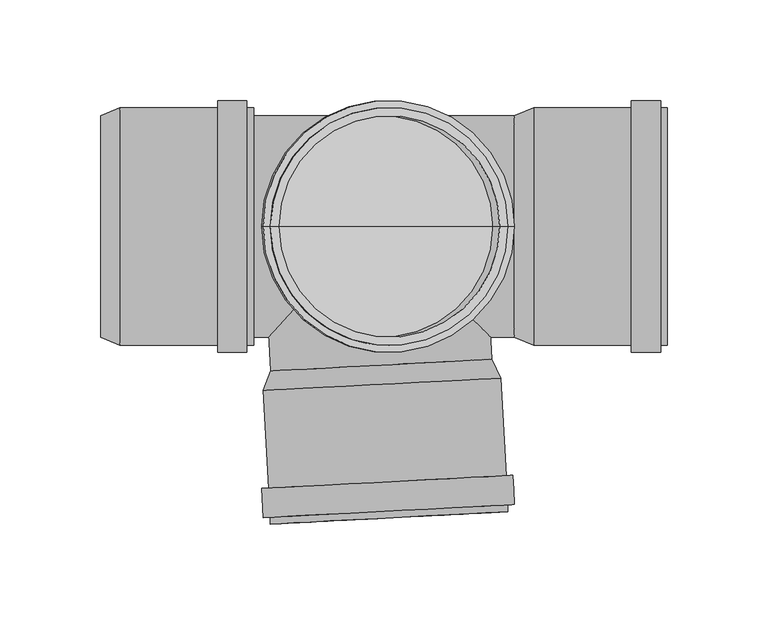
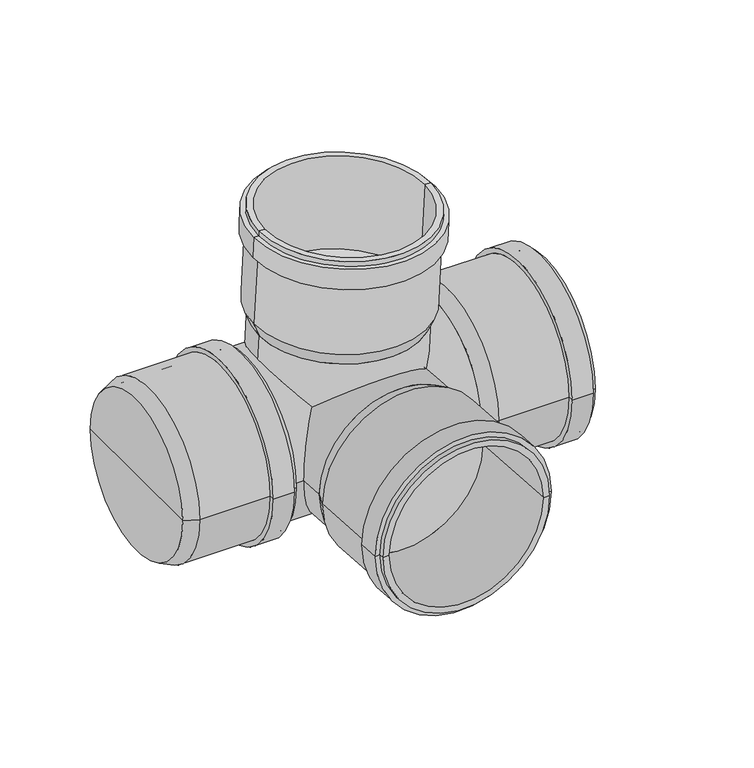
"""IFC4 building model written with IfcOpenShell, lengths in millimetres: pipe fitting geometry, pf_HTED : pf_HTED."""

from ifc_helpers import new_model, si_unit, point, frame, origin, origin_2d, place, context, project, spatial, polyline, circle_curve, trimmed, segment, composite_curve, outline, extrude, source, transform, mapped, element, save
from ifc_brep_helpers import plane_surface, cylinder_surface, revolved_surface, advanced_brep


def pipe_fitting_1ce450aa(model_context):
    return source(origin(), model_context, "Body", "SolidModel", [
        advanced_brep(
        [(58.5358054, 0.0, 66.0269603), (-51.3134434, 0.0, 71.7839155), (-54.9106329, 0.0, 81.4854735), (63.1273781, 0.0, 75.2993635), (3.611181, 0.0, 68.9054379), (66.6077192, 0.0, 141.7082275), (-51.4302918, 0.0, 147.8943376), (-47.3359108, 0.0, 147.6797601), (62.5133381, 0.0, 141.9228049), (66.4297769, 0.0, 138.3128871), (-51.6082341, 0.0, 144.4989971), (69.8251173, 0.0, 138.1349449), (-55.0035745, 0.0, 144.6769394), (69.066246, 0.0, 123.6548166), (-55.7624459, 0.0, 130.1968111), (65.6709055, 0.0, 123.8327589), (-52.3671055, 0.0, 130.0188689), (59.032997, 0.0, 75.5139409), (-50.8162518, 0.0, 81.2708961), (4.1083726, 0.0, 78.3924185)],
        [
            (0, 1, circle_curve(frame((3.611181, 0.0, 68.9054379), z_axis=(0.052335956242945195, 0.0, 0.9986295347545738), x_axis=(-0.9986295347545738, 0.0, 0.052335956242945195)), 55.0)),
            (1, 2),
            (2, 3, circle_curve(frame((4.1083726, 0.0, 78.3924185), z_axis=(-0.052335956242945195, 0.0, -0.9986295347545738), x_axis=(-0.9986295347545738, 0.0, 0.052335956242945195)), 59.1)),
            (3, 0),
            (1, 0, circle_curve(frame((3.611181, 0.0, 68.9054379), z_axis=(0.052335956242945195, 0.0, 0.9986295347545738), x_axis=(-0.9986295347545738, 0.0, 0.052335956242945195)), 55.0)),
            (3, 2, circle_curve(frame((4.1083726, 0.0, 78.3924185), z_axis=(-0.052335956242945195, 0.0, -0.9986295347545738), x_axis=(-0.9986295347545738, 0.0, 0.052335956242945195)), 59.1)),
            (4, 1),
            (0, 4),
            (5, 6, circle_curve(frame((7.5887137, 0.0, 144.8012825), z_axis=(0.052335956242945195, 0.0, 0.9986295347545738), x_axis=(-0.9986295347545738, 0.0, 0.052335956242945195)), 59.1)),
            (6, 7),
            (7, 8, circle_curve(frame((7.5887137, 0.0, 144.8012825), z_axis=(-0.052335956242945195, 0.0, -0.9986295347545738), x_axis=(-0.9986295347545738, 0.0, 0.052335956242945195)), 55.0)),
            (8, 5),
            (6, 5, circle_curve(frame((7.5887137, 0.0, 144.8012825), z_axis=(0.052335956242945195, 0.0, 0.9986295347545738), x_axis=(-0.9986295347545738, 0.0, 0.052335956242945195)), 59.1)),
            (8, 7, circle_curve(frame((7.5887137, 0.0, 144.8012825), z_axis=(-0.052335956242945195, 0.0, -0.9986295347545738), x_axis=(-0.9986295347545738, 0.0, 0.052335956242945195)), 55.0)),
            (9, 10, circle_curve(frame((7.4107714, 0.0, 141.4059421), z_axis=(0.052335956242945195, 0.0, 0.9986295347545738), x_axis=(-0.9986295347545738, 0.0, 0.052335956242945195)), 59.1)),
            (10, 6),
            (5, 9),
            (10, 9, circle_curve(frame((7.4107714, 0.0, 141.4059421), z_axis=(0.052335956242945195, 0.0, 0.9986295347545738), x_axis=(-0.9986295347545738, 0.0, 0.052335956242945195)), 59.1)),
            (11, 12, circle_curve(frame((7.4107714, 0.0, 141.4059421), z_axis=(0.052335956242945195, 0.0, 0.9986295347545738), x_axis=(-0.9986295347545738, 0.0, 0.052335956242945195)), 62.5)),
            (12, 10),
            (9, 11),
            (12, 11, circle_curve(frame((7.4107714, 0.0, 141.4059421), z_axis=(0.052335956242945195, 0.0, 0.9986295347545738), x_axis=(-0.9986295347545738, 0.0, 0.052335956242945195)), 62.5)),
            (13, 14, circle_curve(frame((6.6519, 0.0, 126.9258139), z_axis=(0.052335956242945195, 0.0, 0.9986295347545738), x_axis=(-0.9986295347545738, 0.0, 0.052335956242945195)), 62.5)),
            (14, 12),
            (11, 13),
            (14, 13, circle_curve(frame((6.6519, 0.0, 126.9258139), z_axis=(0.052335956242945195, 0.0, 0.9986295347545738), x_axis=(-0.9986295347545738, 0.0, 0.052335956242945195)), 62.5)),
            (15, 16, circle_curve(frame((6.6519, 0.0, 126.9258139), z_axis=(0.052335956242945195, 0.0, 0.9986295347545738), x_axis=(-0.9986295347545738, 0.0, 0.052335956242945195)), 59.1)),
            (16, 14),
            (13, 15),
            (16, 15, circle_curve(frame((6.6519, 0.0, 126.9258139), z_axis=(0.052335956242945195, 0.0, 0.9986295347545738), x_axis=(-0.9986295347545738, 0.0, 0.052335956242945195)), 59.1)),
            (2, 16),
            (15, 3),
            (17, 18, circle_curve(frame((4.1083726, 0.0, 78.3924185), z_axis=(0.052335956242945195, 0.0, 0.9986295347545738), x_axis=(-0.9986295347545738, 0.0, 0.052335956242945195)), 55.0)),
            (18, 19),
            (19, 17),
            (18, 17, circle_curve(frame((4.1083726, 0.0, 78.3924185), z_axis=(0.052335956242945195, 0.0, 0.9986295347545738), x_axis=(-0.9986295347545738, 0.0, 0.052335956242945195)), 55.0)),
            (7, 18),
            (17, 8),
        ],
        [
            revolved_surface(polyline([(-54.9106329, 0.0, 81.4854735), (-51.3134434, 0.0, 71.7839155)]), (3.611181, 0.0, 68.9054379), (-0.052335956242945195, 0.0, -0.9986295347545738)),
            plane_surface(frame((3.611181, 0.0, 68.9054379), z_axis=(-0.052335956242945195, 0.0, -0.9986295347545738), x_axis=(-0.9986295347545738, 0.0, 0.052335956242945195))),
            plane_surface(frame((7.5887137, 0.0, 144.8012825), z_axis=(0.052335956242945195, 0.0, 0.9986295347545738), x_axis=(-0.9986295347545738, 0.0, 0.052335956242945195))),
            cylinder_surface(frame((3.611181, 0.0, 68.9054379), z_axis=(-0.052335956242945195, 0.0, -0.9986295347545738), x_axis=(-0.9986295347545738, 0.0, 0.052335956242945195)), 59.1),
            plane_surface(frame((7.4107714, 0.0, 141.4059421), z_axis=(0.052335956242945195, 0.0, 0.9986295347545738), x_axis=(-0.9986295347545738, 0.0, 0.052335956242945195))),
            cylinder_surface(frame((3.611181, 0.0, 68.9054379), z_axis=(-0.052335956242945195, 0.0, -0.9986295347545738), x_axis=(-0.9986295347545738, 0.0, 0.052335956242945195)), 62.5),
            plane_surface(frame((6.6519, 0.0, 126.9258139), z_axis=(-0.052335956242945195, 0.0, -0.9986295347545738), x_axis=(-0.9986295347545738, 0.0, 0.052335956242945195))),
            plane_surface(frame((4.1083726, 0.0, 78.3924185), z_axis=(0.052335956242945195, 0.0, 0.9986295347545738), x_axis=(-0.9986295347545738, 0.0, 0.052335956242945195))),
            revolved_surface(polyline([(-50.816251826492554, 0.0, 81.27089608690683), (-47.33591073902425, 0.0, 147.6797600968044)]), (3.611181, 0.0, 68.9054379), (-0.052335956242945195, 0.0, -0.9986295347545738)),
        ],
        [
            (0, [[1, 2, 3, 4]]),
            (0, [[5, -4, 6, -2]]),
            (1, [[7, -1, 8]]),
            (1, [[-8, -5, -7]]),
            (2, [[9, 10, 11, 12]]),
            (2, [[13, -12, 14, -10]]),
            (3, [[15, 16, -9, 17]]),
            (3, [[18, -17, -13, -16]]),
            (4, [[19, 20, -15, 21]]),
            (4, [[22, -21, -18, -20]]),
            (5, [[23, 24, -19, 25]]),
            (5, [[26, -25, -22, -24]]),
            (6, [[27, 28, -23, 29]]),
            (6, [[30, -29, -26, -28]]),
            (3, [[-3, 31, -27, 32]]),
            (3, [[-6, -32, -30, -31]]),
            (7, [[33, 34, 35]]),
            (7, [[36, -35, -34]]),
            (8, [[-11, 37, -33, 38]]),
            (8, [[-14, -38, -36, -37]]),
        ],
    ),
        advanced_brep(
        [(-51.3134434, -71.7839155, 0.0), (58.5358054, -66.0269603, 0.0), (63.1273781, -75.2993635, 0.0), (-54.9106329, -81.4854735, 0.0), (3.611181, -68.9054379, 0.0), (-51.4302918, -147.8943376, 0.0), (66.6077192, -141.7082275, 0.0), (62.5133381, -141.9228049, 0.0), (-47.3359108, -147.6797601, 0.0), (-51.6082341, -144.4989971, 0.0), (66.4297769, -138.3128871, 0.0), (-55.0035745, -144.6769394, 0.0), (69.8251173, -138.1349449, 0.0), (-55.7624459, -130.1968111, 0.0), (69.066246, -123.6548166, 0.0), (-52.3671055, -130.0188689, 0.0), (65.6709055, -123.8327589, 0.0), (-50.8162518, -81.2708961, 0.0), (59.032997, -75.5139409, 0.0), (4.1083726, -78.3924185, 0.0)],
        [
            (0, 1, circle_curve(frame((3.611181, -68.9054379, 0.0), z_axis=(0.05233595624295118, -0.9986295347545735, 0.0), x_axis=(0.9986295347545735, 0.05233595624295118, 0.0)), 55.0)),
            (1, 2),
            (2, 3, circle_curve(frame((4.1083726, -78.3924185, 0.0), z_axis=(-0.05233595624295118, 0.9986295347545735, 0.0), x_axis=(0.9986295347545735, 0.05233595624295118, 0.0)), 59.1)),
            (3, 0),
            (1, 0, circle_curve(frame((3.611181, -68.9054379, 0.0), z_axis=(0.05233595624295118, -0.9986295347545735, 0.0), x_axis=(0.9986295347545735, 0.05233595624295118, 0.0)), 55.0)),
            (3, 2, circle_curve(frame((4.1083726, -78.3924185, 0.0), z_axis=(-0.05233595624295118, 0.9986295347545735, 0.0), x_axis=(0.9986295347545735, 0.05233595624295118, 0.0)), 59.1)),
            (4, 1),
            (0, 4),
            (5, 6, circle_curve(frame((7.5887137, -144.8012825, 0.0), z_axis=(0.05233595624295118, -0.9986295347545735, 0.0), x_axis=(0.9986295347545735, 0.05233595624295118, 0.0)), 59.1)),
            (6, 7),
            (7, 8, circle_curve(frame((7.5887137, -144.8012825, 0.0), z_axis=(-0.05233595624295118, 0.9986295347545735, 0.0), x_axis=(0.9986295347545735, 0.05233595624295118, 0.0)), 55.0)),
            (8, 5),
            (6, 5, circle_curve(frame((7.5887137, -144.8012825, 0.0), z_axis=(0.05233595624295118, -0.9986295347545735, 0.0), x_axis=(0.9986295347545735, 0.05233595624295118, 0.0)), 59.1)),
            (8, 7, circle_curve(frame((7.5887137, -144.8012825, 0.0), z_axis=(-0.05233595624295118, 0.9986295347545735, 0.0), x_axis=(0.9986295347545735, 0.05233595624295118, 0.0)), 55.0)),
            (9, 10, circle_curve(frame((7.4107714, -141.4059421, 0.0), z_axis=(0.05233595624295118, -0.9986295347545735, 0.0), x_axis=(0.9986295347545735, 0.05233595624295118, 0.0)), 59.1)),
            (10, 6),
            (5, 9),
            (10, 9, circle_curve(frame((7.4107714, -141.4059421, 0.0), z_axis=(0.05233595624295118, -0.9986295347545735, 0.0), x_axis=(0.9986295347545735, 0.05233595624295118, 0.0)), 59.1)),
            (11, 12, circle_curve(frame((7.4107714, -141.4059421, 0.0), z_axis=(0.05233595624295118, -0.9986295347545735, 0.0), x_axis=(0.9986295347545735, 0.05233595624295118, 0.0)), 62.5)),
            (12, 10),
            (9, 11),
            (12, 11, circle_curve(frame((7.4107714, -141.4059421, 0.0), z_axis=(0.05233595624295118, -0.9986295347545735, 0.0), x_axis=(0.9986295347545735, 0.05233595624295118, 0.0)), 62.5)),
            (13, 14, circle_curve(frame((6.6519, -126.9258139, 0.0), z_axis=(0.05233595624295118, -0.9986295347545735, 0.0), x_axis=(0.9986295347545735, 0.05233595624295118, 0.0)), 62.5)),
            (14, 12),
            (11, 13),
            (14, 13, circle_curve(frame((6.6519, -126.9258139, 0.0), z_axis=(0.05233595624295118, -0.9986295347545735, 0.0), x_axis=(0.9986295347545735, 0.05233595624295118, 0.0)), 62.5)),
            (15, 16, circle_curve(frame((6.6519, -126.9258139, 0.0), z_axis=(0.05233595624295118, -0.9986295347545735, 0.0), x_axis=(0.9986295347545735, 0.05233595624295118, 0.0)), 59.1)),
            (16, 14),
            (13, 15),
            (16, 15, circle_curve(frame((6.6519, -126.9258139, 0.0), z_axis=(0.05233595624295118, -0.9986295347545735, 0.0), x_axis=(0.9986295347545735, 0.05233595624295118, 0.0)), 59.1)),
            (2, 16),
            (15, 3),
            (17, 18, circle_curve(frame((4.1083726, -78.3924185, 0.0), z_axis=(0.05233595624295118, -0.9986295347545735, 0.0), x_axis=(0.9986295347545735, 0.05233595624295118, 0.0)), 55.0)),
            (18, 19),
            (19, 17),
            (18, 17, circle_curve(frame((4.1083726, -78.3924185, 0.0), z_axis=(0.05233595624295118, -0.9986295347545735, 0.0), x_axis=(0.9986295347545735, 0.05233595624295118, 0.0)), 55.0)),
            (7, 18),
            (17, 8),
        ],
        [
            revolved_surface(polyline([(63.1273781, -75.2993635, 0.0), (58.5358054, -66.0269603, 0.0)]), (3.611181, -68.9054379, 0.0), (-0.05233595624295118, 0.9986295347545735, 0.0)),
            plane_surface(frame((3.611181, -68.9054379, 0.0), z_axis=(-0.05233595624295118, 0.9986295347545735, 0.0), x_axis=(0.9986295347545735, 0.05233595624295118, 0.0))),
            plane_surface(frame((7.5887137, -144.8012825, 0.0), z_axis=(0.05233595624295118, -0.9986295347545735, 0.0), x_axis=(0.9986295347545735, 0.05233595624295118, 0.0))),
            cylinder_surface(frame((3.611181, -68.9054379, 0.0), z_axis=(-0.05233595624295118, 0.9986295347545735, 0.0), x_axis=(0.9986295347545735, 0.05233595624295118, 0.0)), 59.1),
            plane_surface(frame((7.4107714, -141.4059421, 0.0), z_axis=(0.05233595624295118, -0.9986295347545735, 0.0), x_axis=(0.9986295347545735, 0.05233595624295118, 0.0))),
            cylinder_surface(frame((3.611181, -68.9054379, 0.0), z_axis=(-0.05233595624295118, 0.9986295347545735, 0.0), x_axis=(0.9986295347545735, 0.05233595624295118, 0.0)), 62.5),
            plane_surface(frame((6.6519, -126.9258139, 0.0), z_axis=(-0.05233595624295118, 0.9986295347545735, 0.0), x_axis=(0.9986295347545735, 0.05233595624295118, 0.0))),
            plane_surface(frame((4.1083726, -78.3924185, 0.0), z_axis=(0.05233595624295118, -0.9986295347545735, 0.0), x_axis=(0.9986295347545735, 0.05233595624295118, 0.0))),
            revolved_surface(polyline([(59.032996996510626, -75.51394090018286, 0.0), (62.513338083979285, -141.92280491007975, 0.0)]), (3.611181, -68.9054379, 0.0), (-0.05233595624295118, 0.9986295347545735, 0.0)),
        ],
        [
            (0, [[1, 2, 3, 4]]),
            (0, [[5, -4, 6, -2]]),
            (1, [[7, -1, 8]]),
            (1, [[-8, -5, -7]]),
            (2, [[9, 10, 11, 12]]),
            (2, [[13, -12, 14, -10]]),
            (3, [[15, 16, -9, 17]]),
            (3, [[18, -17, -13, -16]]),
            (4, [[19, 20, -15, 21]]),
            (4, [[22, -21, -18, -20]]),
            (5, [[23, 24, -19, 25]]),
            (5, [[26, -25, -22, -24]]),
            (6, [[27, 28, -23, 29]]),
            (6, [[30, -29, -26, -28]]),
            (3, [[-3, 31, -27, 32]]),
            (3, [[-6, -32, -30, -31]]),
            (7, [[33, 34, 35]]),
            (7, [[36, -35, -34]]),
            (8, [[-11, 37, -33, 38]]),
            (8, [[-14, -38, -36, -37]]),
        ],
    ),
        advanced_brep(
        [(69.8, -55.0, 0.0), (69.8, 55.0, 0.0), (79.3, 59.1, 0.0), (79.3, -59.1, 0.0), (69.8, 0.0, 0.0), (145.8, -59.1, 0.0), (145.8, 59.1, 0.0), (145.8, 55.0, 0.0), (145.8, -55.0, 0.0), (142.4, -59.1, 0.0), (142.4, 59.1, 0.0), (142.4, -62.5, 0.0), (142.4, 62.5, 0.0), (127.9, -62.5, 0.0), (127.9, 62.5, 0.0), (127.9, -59.1, 0.0), (127.9, 59.1, 0.0), (79.3, -55.0, 0.0), (79.3, 55.0, 0.0), (79.3, 0.0, 0.0)],
        [
            (0, 1, circle_curve(frame((69.8, 0.0, 0.0), z_axis=(1.0, 0.0, 0.0), x_axis=(0.0, 1.0, 0.0)), 55.0)),
            (1, 2),
            (2, 3, circle_curve(frame((79.3, 0.0, 0.0), z_axis=(-1.0, 0.0, 0.0), x_axis=(0.0, 1.0, 0.0)), 59.1)),
            (3, 0),
            (1, 0, circle_curve(frame((69.8, 0.0, 0.0), z_axis=(1.0, 0.0, 0.0), x_axis=(0.0, 1.0, 0.0)), 55.0)),
            (3, 2, circle_curve(frame((79.3, 0.0, 0.0), z_axis=(-1.0, 0.0, 0.0), x_axis=(0.0, 1.0, 0.0)), 59.1)),
            (4, 1),
            (0, 4),
            (5, 6, circle_curve(frame((145.8, 0.0, 0.0), z_axis=(1.0, 0.0, 0.0), x_axis=(0.0, 1.0, 0.0)), 59.1)),
            (6, 7),
            (7, 8, circle_curve(frame((145.8, 0.0, 0.0), z_axis=(-1.0, 0.0, 0.0), x_axis=(0.0, 1.0, 0.0)), 55.0)),
            (8, 5),
            (6, 5, circle_curve(frame((145.8, 0.0, 0.0), z_axis=(1.0, 0.0, 0.0), x_axis=(0.0, 1.0, 0.0)), 59.1)),
            (8, 7, circle_curve(frame((145.8, 0.0, 0.0), z_axis=(-1.0, 0.0, 0.0), x_axis=(0.0, 1.0, 0.0)), 55.0)),
            (9, 10, circle_curve(frame((142.4, 0.0, 0.0), z_axis=(1.0, 0.0, 0.0), x_axis=(0.0, 1.0, 0.0)), 59.1)),
            (10, 6),
            (5, 9),
            (10, 9, circle_curve(frame((142.4, 0.0, 0.0), z_axis=(1.0, 0.0, 0.0), x_axis=(0.0, 1.0, 0.0)), 59.1)),
            (11, 12, circle_curve(frame((142.4, 0.0, 0.0), z_axis=(1.0, 0.0, 0.0), x_axis=(0.0, 1.0, 0.0)), 62.5)),
            (12, 10),
            (9, 11),
            (12, 11, circle_curve(frame((142.4, 0.0, 0.0), z_axis=(1.0, 0.0, 0.0), x_axis=(0.0, 1.0, 0.0)), 62.5)),
            (13, 14, circle_curve(frame((127.9, 0.0, 0.0), z_axis=(1.0, 0.0, 0.0), x_axis=(0.0, 1.0, 0.0)), 62.5)),
            (14, 12),
            (11, 13),
            (14, 13, circle_curve(frame((127.9, 0.0, 0.0), z_axis=(1.0, 0.0, 0.0), x_axis=(0.0, 1.0, 0.0)), 62.5)),
            (15, 16, circle_curve(frame((127.9, 0.0, 0.0), z_axis=(1.0, 0.0, 0.0), x_axis=(0.0, 1.0, 0.0)), 59.1)),
            (16, 14),
            (13, 15),
            (16, 15, circle_curve(frame((127.9, 0.0, 0.0), z_axis=(1.0, 0.0, 0.0), x_axis=(0.0, 1.0, 0.0)), 59.1)),
            (2, 16),
            (15, 3),
            (17, 18, circle_curve(frame((79.3, 0.0, 0.0), z_axis=(1.0, 0.0, 0.0), x_axis=(0.0, 1.0, 0.0)), 55.0)),
            (18, 19),
            (19, 17),
            (18, 17, circle_curve(frame((79.3, 0.0, 0.0), z_axis=(1.0, 0.0, 0.0), x_axis=(0.0, 1.0, 0.0)), 55.0)),
            (7, 18),
            (17, 8),
        ],
        [
            revolved_surface(polyline([(79.3, 59.1, 0.0), (69.8, 55.0, 0.0)]), (69.8, 0.0, 0.0), (-1.0, 0.0, 0.0)),
            plane_surface(frame((69.8, 0.0, 0.0), z_axis=(-1.0, 0.0, 0.0), x_axis=(0.0, 1.0, 0.0))),
            plane_surface(frame((145.8, 0.0, 0.0), z_axis=(1.0, 0.0, 0.0), x_axis=(0.0, 1.0, 0.0))),
            cylinder_surface(frame((69.8, 0.0, 0.0), z_axis=(-1.0, 0.0, 0.0), x_axis=(0.0, 1.0, 0.0)), 59.1),
            plane_surface(frame((142.4, 0.0, 0.0), z_axis=(1.0, 0.0, 0.0), x_axis=(0.0, 1.0, 0.0))),
            cylinder_surface(frame((69.8, 0.0, 0.0), z_axis=(-1.0, 0.0, 0.0), x_axis=(0.0, 1.0, 0.0)), 62.5),
            plane_surface(frame((127.9, 0.0, 0.0), z_axis=(-1.0, 0.0, 0.0), x_axis=(0.0, 1.0, 0.0))),
            plane_surface(frame((79.3, 0.0, 0.0), z_axis=(1.0, 0.0, 0.0), x_axis=(0.0, 1.0, 0.0))),
            revolved_surface(polyline([(79.3, 55.0, 0.0), (145.8, 55.0, 0.0)]), (69.8, 0.0, 0.0), (-1.0, 0.0, 0.0)),
        ],
        [
            (0, [[1, 2, 3, 4]]),
            (0, [[5, -4, 6, -2]]),
            (1, [[7, -1, 8]]),
            (1, [[-8, -5, -7]]),
            (2, [[9, 10, 11, 12]]),
            (2, [[13, -12, 14, -10]]),
            (3, [[15, 16, -9, 17]]),
            (3, [[18, -17, -13, -16]]),
            (4, [[19, 20, -15, 21]]),
            (4, [[22, -21, -18, -20]]),
            (5, [[23, 24, -19, 25]]),
            (5, [[26, -25, -22, -24]]),
            (6, [[27, 28, -23, 29]]),
            (6, [[30, -29, -26, -28]]),
            (3, [[-3, 31, -27, 32]]),
            (3, [[-6, -32, -30, -31]]),
            (7, [[33, 34, 35]]),
            (7, [[36, -35, -34]]),
            (8, [[-11, 37, -33, 38]]),
            (8, [[-14, -38, -36, -37]]),
        ],
    ),
        advanced_brep(
        [(-135.8, -55.0, 0.0), (-135.8, 55.0, 0.0), (-126.3, 59.1, 0.0), (-126.3, -59.1, 0.0), (-135.8, 0.0, 0.0), (-59.8, -59.1, 0.0), (-59.8, 59.1, 0.0), (-59.8, 55.0, 0.0), (-59.8, -55.0, 0.0), (-63.2, -59.1, 0.0), (-63.2, 59.1, 0.0), (-63.2, -62.5, 0.0), (-63.2, 62.5, 0.0), (-77.7, -62.5, 0.0), (-77.7, 62.5, 0.0), (-77.7, -59.1, 0.0), (-77.7, 59.1, 0.0), (-126.3, -55.0, 0.0), (-126.3, 55.0, 0.0), (-126.3, 0.0, 0.0)],
        [
            (0, 1, circle_curve(frame((-135.8, 0.0, 0.0), z_axis=(1.0, 0.0, 0.0), x_axis=(0.0, 1.0, 0.0)), 55.0)),
            (1, 2),
            (2, 3, circle_curve(frame((-126.3, 0.0, 0.0), z_axis=(-1.0, 0.0, 0.0), x_axis=(0.0, 1.0, 0.0)), 59.1)),
            (3, 0),
            (1, 0, circle_curve(frame((-135.8, 0.0, 0.0), z_axis=(1.0, 0.0, 0.0), x_axis=(0.0, 1.0, 0.0)), 55.0)),
            (3, 2, circle_curve(frame((-126.3, 0.0, 0.0), z_axis=(-1.0, 0.0, 0.0), x_axis=(0.0, 1.0, 0.0)), 59.1)),
            (4, 1),
            (0, 4),
            (5, 6, circle_curve(frame((-59.8, 0.0, 0.0), z_axis=(1.0, 0.0, 0.0), x_axis=(0.0, 1.0, 0.0)), 59.1)),
            (6, 7),
            (7, 8, circle_curve(frame((-59.8, 0.0, 0.0), z_axis=(-1.0, 0.0, 0.0), x_axis=(0.0, 1.0, 0.0)), 55.0)),
            (8, 5),
            (6, 5, circle_curve(frame((-59.8, 0.0, 0.0), z_axis=(1.0, 0.0, 0.0), x_axis=(0.0, 1.0, 0.0)), 59.1)),
            (8, 7, circle_curve(frame((-59.8, 0.0, 0.0), z_axis=(-1.0, 0.0, 0.0), x_axis=(0.0, 1.0, 0.0)), 55.0)),
            (9, 10, circle_curve(frame((-63.2, 0.0, 0.0), z_axis=(1.0, 0.0, 0.0), x_axis=(0.0, 1.0, 0.0)), 59.1)),
            (10, 6),
            (5, 9),
            (10, 9, circle_curve(frame((-63.2, 0.0, 0.0), z_axis=(1.0, 0.0, 0.0), x_axis=(0.0, 1.0, 0.0)), 59.1)),
            (11, 12, circle_curve(frame((-63.2, 0.0, 0.0), z_axis=(1.0, 0.0, 0.0), x_axis=(0.0, 1.0, 0.0)), 62.5)),
            (12, 10),
            (9, 11),
            (12, 11, circle_curve(frame((-63.2, 0.0, 0.0), z_axis=(1.0, 0.0, 0.0), x_axis=(0.0, 1.0, 0.0)), 62.5)),
            (13, 14, circle_curve(frame((-77.7, 0.0, 0.0), z_axis=(1.0, 0.0, 0.0), x_axis=(0.0, 1.0, 0.0)), 62.5)),
            (14, 12),
            (11, 13),
            (14, 13, circle_curve(frame((-77.7, 0.0, 0.0), z_axis=(1.0, 0.0, 0.0), x_axis=(0.0, 1.0, 0.0)), 62.5)),
            (15, 16, circle_curve(frame((-77.7, 0.0, 0.0), z_axis=(1.0, 0.0, 0.0), x_axis=(0.0, 1.0, 0.0)), 59.1)),
            (16, 14),
            (13, 15),
            (16, 15, circle_curve(frame((-77.7, 0.0, 0.0), z_axis=(1.0, 0.0, 0.0), x_axis=(0.0, 1.0, 0.0)), 59.1)),
            (2, 16),
            (15, 3),
            (17, 18, circle_curve(frame((-126.3, 0.0, 0.0), z_axis=(1.0, 0.0, 0.0), x_axis=(0.0, 1.0, 0.0)), 55.0)),
            (18, 19),
            (19, 17),
            (18, 17, circle_curve(frame((-126.3, 0.0, 0.0), z_axis=(1.0, 0.0, 0.0), x_axis=(0.0, 1.0, 0.0)), 55.0)),
            (7, 18),
            (17, 8),
        ],
        [
            revolved_surface(polyline([(-126.3, 59.1, 0.0), (-135.8, 55.0, 0.0)]), (-135.8, 0.0, 0.0), (-1.0, 0.0, 0.0)),
            plane_surface(frame((-135.8, 0.0, 0.0), z_axis=(-1.0, 0.0, 0.0), x_axis=(0.0, 1.0, 0.0))),
            plane_surface(frame((-59.8, 0.0, 0.0), z_axis=(1.0, 0.0, 0.0), x_axis=(0.0, 1.0, 0.0))),
            cylinder_surface(frame((-135.8, 0.0, 0.0), z_axis=(-1.0, 0.0, 0.0), x_axis=(0.0, 1.0, 0.0)), 59.1),
            plane_surface(frame((-63.2, 0.0, 0.0), z_axis=(1.0, 0.0, 0.0), x_axis=(0.0, 1.0, 0.0))),
            cylinder_surface(frame((-135.8, 0.0, 0.0), z_axis=(-1.0, 0.0, 0.0), x_axis=(0.0, 1.0, 0.0)), 62.5),
            plane_surface(frame((-77.7, 0.0, 0.0), z_axis=(-1.0, 0.0, 0.0), x_axis=(0.0, 1.0, 0.0))),
            plane_surface(frame((-126.3, 0.0, 0.0), z_axis=(1.0, 0.0, 0.0), x_axis=(0.0, 1.0, 0.0))),
            revolved_surface(polyline([(-126.3, 55.0, 0.0), (-59.8, 55.0, 0.0)]), (-135.8, 0.0, 0.0), (-1.0, 0.0, 0.0)),
        ],
        [
            (0, [[1, 2, 3, 4]]),
            (0, [[5, -4, 6, -2]]),
            (1, [[7, -1, 8]]),
            (1, [[-8, -5, -7]]),
            (2, [[9, 10, 11, 12]]),
            (2, [[13, -12, 14, -10]]),
            (3, [[15, 16, -9, 17]]),
            (3, [[18, -17, -13, -16]]),
            (4, [[19, 20, -15, 21]]),
            (4, [[22, -21, -18, -20]]),
            (5, [[23, 24, -19, 25]]),
            (5, [[26, -25, -22, -24]]),
            (6, [[27, 28, -23, 29]]),
            (6, [[30, -29, -26, -28]]),
            (3, [[-3, 31, -27, 32]]),
            (3, [[-6, -32, -30, -31]]),
            (7, [[33, 34, 35]]),
            (7, [[36, -35, -34]]),
            (8, [[-11, 37, -33, 38]]),
            (8, [[-14, -38, -36, -37]]),
        ],
    ),
        extrude(outline(composite_curve([segment(trimmed(circle_curve(origin_2d(), 55.0), [point((0.0, 55.0))], [point((0.0, -55.0))], False, "CARTESIAN"), True, "CONTINUOUS"), segment(trimmed(circle_curve(origin_2d(), 55.0), [point((0.0, -55.0))], [point((0.0, 55.0))], False, "CARTESIAN"), True, "CONTINUOUS")], self_intersect=False)), frame((0.0, 0.0, 0.0), z_axis=(0.052335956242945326, 0.0, 0.9986295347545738), x_axis=(0.0, -1.0, 0.0)), (0.0, 0.0, 1.0), 69.0),
        extrude(outline(composite_curve([segment(trimmed(circle_curve(origin_2d(), 55.0), [point((0.0, -55.0))], [point((0.0, 55.0))], False, "CARTESIAN"), True, "CONTINUOUS"), segment(trimmed(circle_curve(origin_2d(), 55.0), [point((0.0, 55.0))], [point((0.0, -55.0))], False, "CARTESIAN"), True, "CONTINUOUS")], self_intersect=False)), frame((3.611181, -68.9054379, 0.0), z_axis=(-0.0523359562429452, 0.9986295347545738, 0.0), x_axis=(0.0, 0.0, 1.0)), (0.0, 0.0, 1.0), 69.0),
        extrude(outline(composite_curve([segment(trimmed(circle_curve(origin_2d(), 55.0), [point((-55.0, 0.0))], [point((55.0, 0.0))], False, "CARTESIAN"), True, "CONTINUOUS"), segment(trimmed(circle_curve(origin_2d(), 55.0), [point((55.0, 0.0))], [point((-55.0, 0.0))], False, "CARTESIAN"), True, "CONTINUOUS")], self_intersect=False)), frame((-126.3, 0.0, 0.0), z_axis=(1.0, 0.0, 0.0), x_axis=(0.0, 1.0, 0.0)), (0.0, 0.0, 1.0), 196.1),
    ])


if __name__ == "__main__":
    model = new_model("IFC4")
    model_context = context("Model", 3, world=origin())
    ifc_project = project(units=[si_unit("LENGTHUNIT", "METRE", prefix="MILLI")], contexts=[model_context])
    site = spatial("IfcSite", under=ifc_project)
    building = spatial("IfcBuilding", under=site)
    placement = place(None, origin())
    pipe_fitting_shape = pipe_fitting_1ce450aa(model_context)
    element("IfcPipeFitting", 1, ObjectType="pf_HTED : pf_HTED", at=placement, inside=building, context=model_context, shape_type="MappedRepresentation", body=[
        mapped(pipe_fitting_shape, transform((0.0, 0.0, 0.0), x_axis=(1.0, 0.0, 0.0), y_axis=(0.0, 1.0, 0.0), z_axis=(0.0, 0.0, 1.0))),
    ])
    save(model, "model.ifc")
